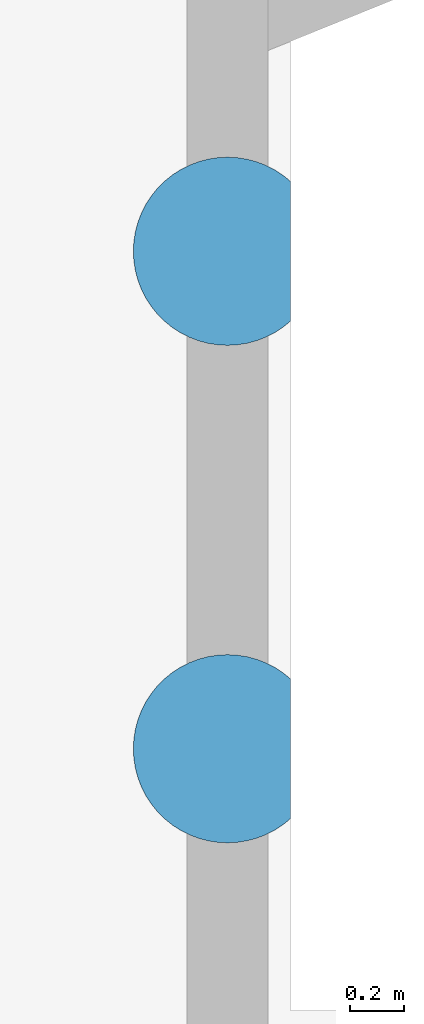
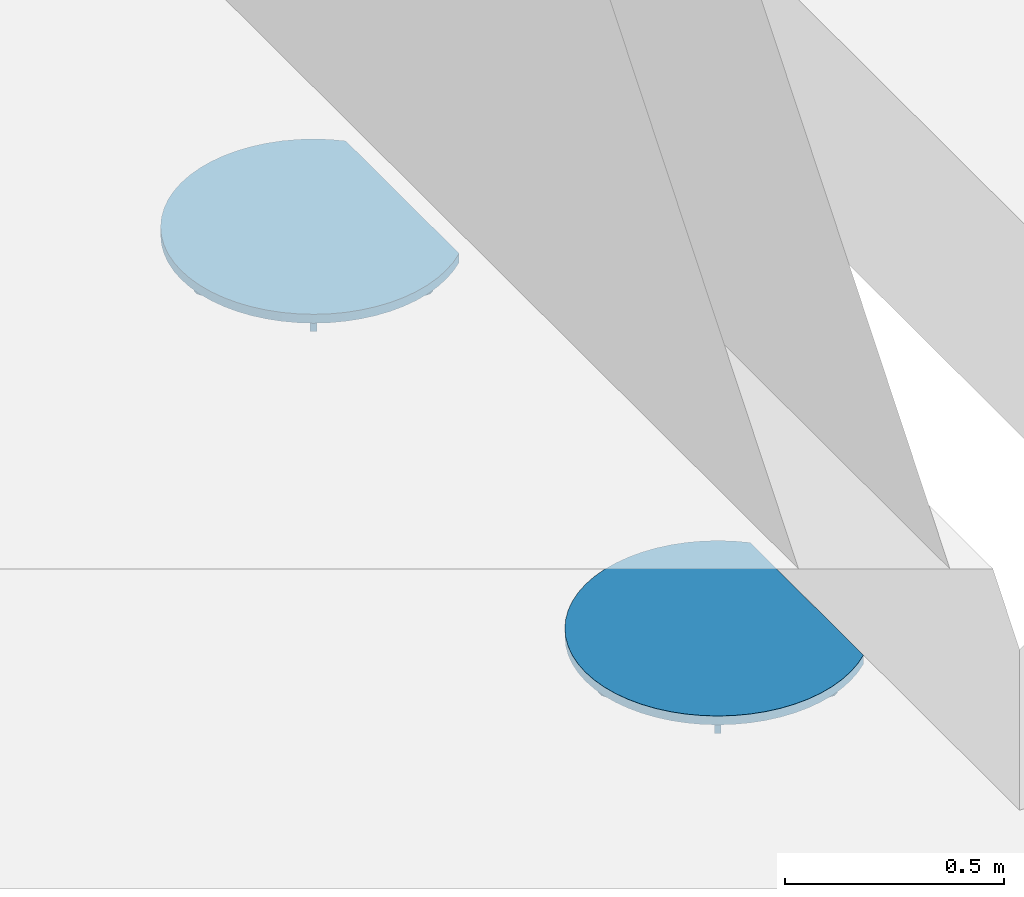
# One storey, part 20 of 34: 2 beams.
"""IFC2X3 building model written with IfcOpenShell, lengths in millimetres."""

from ifc_helpers import new_model, entity, si_unit, converted_unit, derived_unit, direction, frame, frame_2d, origin, origin_2d_with_axis, place, context, subcontext, project, spatial, polyline, circle_curve, parameter, trimmed, segment, composite_curve, rectangle, outline, extrude, clip, halfspace, source, transform, mapped, material, type_object, type_shapes, element, save


model = new_model("IFC2X3")

# Units and contexts
model_context = context("Model", 3, precision=0.01, world=origin(), true_north=direction((6.12303176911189e-17, 1.0)))
body_context = subcontext(model_context, "Body", "Model", "MODEL_VIEW")
ifc_project = project(units=[si_unit("LENGTHUNIT", "METRE", prefix="MILLI"), si_unit("AREAUNIT", "SQUARE_METRE", prefix="MILLI"), si_unit("VOLUMEUNIT", "CUBIC_METRE"), converted_unit("PLANEANGLEUNIT", "DEGREE", entity("IfcRatioMeasure", 0.0174532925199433), si_unit("PLANEANGLEUNIT", "RADIAN"), dimensions=[0, 0, 0, 0, 0, 0, 0]), si_unit("MASSUNIT", "GRAM", prefix="KILO"), derived_unit("MASSDENSITYUNIT", [(si_unit("MASSUNIT", "GRAM", prefix="KILO"), 1), (si_unit("LENGTHUNIT", "METRE"), -3)]), derived_unit("MOMENTOFINERTIAUNIT", [(si_unit("LENGTHUNIT", "METRE"), 4)]), si_unit("TIMEUNIT", "SECOND"), si_unit("FREQUENCYUNIT", "HERTZ"), si_unit("THERMODYNAMICTEMPERATUREUNIT", "DEGREE_CELSIUS"), derived_unit("THERMALTRANSMITTANCEUNIT", [(si_unit("MASSUNIT", "GRAM", prefix="KILO"), 1), (si_unit("THERMODYNAMICTEMPERATUREUNIT", "KELVIN"), -1), (si_unit("TIMEUNIT", "SECOND"), -3)]), derived_unit("VOLUMETRICFLOWRATEUNIT", [(si_unit("LENGTHUNIT", "METRE"), 3), (si_unit("TIMEUNIT", "SECOND"), -1)]), si_unit("ELECTRICCURRENTUNIT", "AMPERE"), si_unit("ELECTRICVOLTAGEUNIT", "VOLT"), si_unit("POWERUNIT", "WATT"), si_unit("FORCEUNIT", "NEWTON", prefix="KILO"), si_unit("ILLUMINANCEUNIT", "LUX"), si_unit("LUMINOUSFLUXUNIT", "LUMEN"), si_unit("LUMINOUSINTENSITYUNIT", "CANDELA"), derived_unit("USERDEFINED", [(si_unit("MASSUNIT", "GRAM", prefix="KILO"), -1), (si_unit("LENGTHUNIT", "METRE"), -2), (si_unit("TIMEUNIT", "SECOND"), 3), (si_unit("LUMINOUSFLUXUNIT", "LUMEN"), 1)]), derived_unit("LINEARVELOCITYUNIT", [(si_unit("LENGTHUNIT", "METRE"), 1), (si_unit("TIMEUNIT", "SECOND"), -1)]), si_unit("PRESSUREUNIT", "PASCAL"), derived_unit("USERDEFINED", [(si_unit("LENGTHUNIT", "METRE"), -2), (si_unit("MASSUNIT", "GRAM", prefix="KILO"), 1), (si_unit("TIMEUNIT", "SECOND"), -2)]), derived_unit("LINEARFORCEUNIT", [(si_unit("MASSUNIT", "GRAM", prefix="KILO"), 1), (si_unit("LENGTHUNIT", "METRE"), 1), (si_unit("TIMEUNIT", "SECOND"), -2), (si_unit("LENGTHUNIT", "METRE"), -1)]), derived_unit("PLANARFORCEUNIT", [(si_unit("MASSUNIT", "GRAM", prefix="KILO"), 1), (si_unit("LENGTHUNIT", "METRE"), 1), (si_unit("TIMEUNIT", "SECOND"), -2), (si_unit("LENGTHUNIT", "METRE"), -2)])], contexts=[model_context])

# Site, building, storey
site_placement = place(None, origin())
site = spatial("IfcSite", under=ifc_project, at=site_placement, Name="Theater aan de Parade", CompositionType="ELEMENT")
building_placement = place(site_placement, origin())
building = spatial("IfcBuilding", under=site, at=building_placement, Name="Theater aan de Parade", CompositionType="ELEMENT")
storey_placement = place(building_placement, frame((0.0, 0.0, 3.49116848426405e-09)))
storey = spatial("IfcBuildingStorey", under=building, at=storey_placement, Name="00 begane grond", CompositionType="ELEMENT", Elevation=3.49116848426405e-09)

# Beams
ifc_material = material(Name="00_PBT_MAT_staal_S355")
beam_type = type_object("IfcBeamType", Name="28_PBT_SF_staal_krans:28_PBT_SF_staal_krans_d=700_323.9_VOID_235", PredefinedType="BEAM", material=ifc_material)
shared_shape = source(origin(), body_context, "Body", "SweptSolid", [
    clip(extrude(rectangle(XDim=150.000000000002, YDim=15.0, at=frame_2d((-7.105427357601e-15, -4.44089209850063e-15), x_axis=(1.0, 0.0))), frame((-118.475000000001, -205.204719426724, -175.0), z_axis=(0.0, 0.0, 1.0), x_axis=(0.499999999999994, 0.866025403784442, 0.0)), (0.0, 0.0, 1.0), 149.999999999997), halfspace(frame((-162.470190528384, -266.406624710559, -75.0), z_axis=(-0.277350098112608, -0.480384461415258, -0.832050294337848), x_axis=(0.866025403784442, -0.499999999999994, 0.0)), False)),
    clip(extrude(rectangle(XDim=150.000000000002, YDim=15.0, at=origin_2d_with_axis()), frame((118.474999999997, 205.204719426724, -175.0), z_axis=(0.0, 0.0, 1.0), x_axis=(0.499999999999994, 0.866025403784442, 0.0)), (0.0, 0.0, 1.0), 149.999999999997), halfspace(frame((149.479809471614, 273.906624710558, -75.0), z_axis=(0.277350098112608, 0.480384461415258, -0.832050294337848), x_axis=(0.866025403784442, -0.499999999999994, 0.0)), False)),
    clip(extrude(rectangle(XDim=150.000000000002, YDim=15.0, at=frame_2d((2.1316282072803e-14, 3.99680288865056e-15), x_axis=(1.0, 0.0))), frame((-118.475, 205.204719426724, -175.0), z_axis=(0.0, 0.0, 1.0), x_axis=(-0.499999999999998, 0.86602540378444, 0.0)), (0.0, 0.0, 1.0), 149.999999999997), halfspace(frame((-162.470190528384, 266.406624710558, -75.0), z_axis=(-0.277350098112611, 0.480384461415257, -0.832050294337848), x_axis=(0.86602540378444, 0.499999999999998, 0.0)), False)),
    clip(extrude(rectangle(XDim=150.000000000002, YDim=15.0, at=frame_2d((-2.1316282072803e-14, 4.44089209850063e-15), x_axis=(1.0, 0.0))), frame((118.475, -205.204719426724, -175.0), z_axis=(0.0, 0.0, 1.0), x_axis=(-0.499999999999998, 0.86602540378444, 0.0)), (0.0, 0.0, 1.0), 149.999999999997), halfspace(frame((149.479809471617, -273.906624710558, -75.0), z_axis=(0.277350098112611, -0.480384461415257, -0.832050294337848), x_axis=(0.86602540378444, 0.499999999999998, 0.0)), False)),
    clip(extrude(rectangle(XDim=15.0, YDim=73.0499999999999, at=frame_2d((0.0, -1.4210854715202e-14), x_axis=(1.0, 0.0))), frame((198.475, 0.0, -175.0), z_axis=(0.0, 0.0, 1.0), x_axis=(0.0, -1.0, 0.0)), (0.0, 0.0, 1.0), 149.999999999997), halfspace(frame((235.0, -7.5, -126.299999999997), z_axis=(0.554700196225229, 0.0, -0.832050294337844), x_axis=(0.0, 1.0, 0.0)), False)),
    clip(extrude(rectangle(XDim=15.0, YDim=150.000000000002, at=frame_2d((0.0, 1.4210854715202e-14), x_axis=(1.0, 0.0))), frame((-236.950000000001, 0.0, -175.0), z_axis=(0.0, 0.0, 1.0), x_axis=(0.0, -1.0, 0.0)), (0.0, 0.0, 1.0), 149.999999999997), halfspace(frame((-311.950000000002, -7.5, -75.0), z_axis=(-0.554700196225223, 0.0, -0.832050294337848), x_axis=(0.0, 1.0, 0.0)), False)),
    extrude(outline(composite_curve([segment(polyline([(-259.374246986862, 0.0), (259.374246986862, 0.0)]), True, "CONTINUOUS"), segment(trimmed(circle_curve(frame_2d((0.0, 235.0), x_axis=(0.741069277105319, -0.67142857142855)), 350.0), [parameter(0.0)], [parameter(264.354837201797)], True, "PARAMETER"), True, "CONTINUOUS")], self_intersect=False)), frame((235.0, 0.0, -25.0), z_axis=(0.0, 0.0, 1.0), x_axis=(0.0, 1.0, 0.0)), (0.0, 0.0, 1.0), 25.0),
])
type_shapes(beam_type, [shared_shape])
for number, where in (
    (1, (15203.8570025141, 40254.9748637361, -690.0)),
    (2, (15203.8570025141, 42105.1913491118, -690.0)),
):
    element("IfcBeam", number, at=place(storey_placement, frame(where)), inside=storey, type_object=beam_type, material=ifc_material, Name="28_PBT_SF_staal_krans:28_PBT_SF_staal_krans_d=700_323.9_VOID_235", ObjectType="28_PBT_SF_staal_krans:28_PBT_SF_staal_krans_d=700_323.9_VOID_235", context=body_context, shape_type="MappedRepresentation", body=[
        mapped(shared_shape, transform((0.0, 0.0, 0.0), scale=1.0)),
    ])

save(model, "model.ifc")
